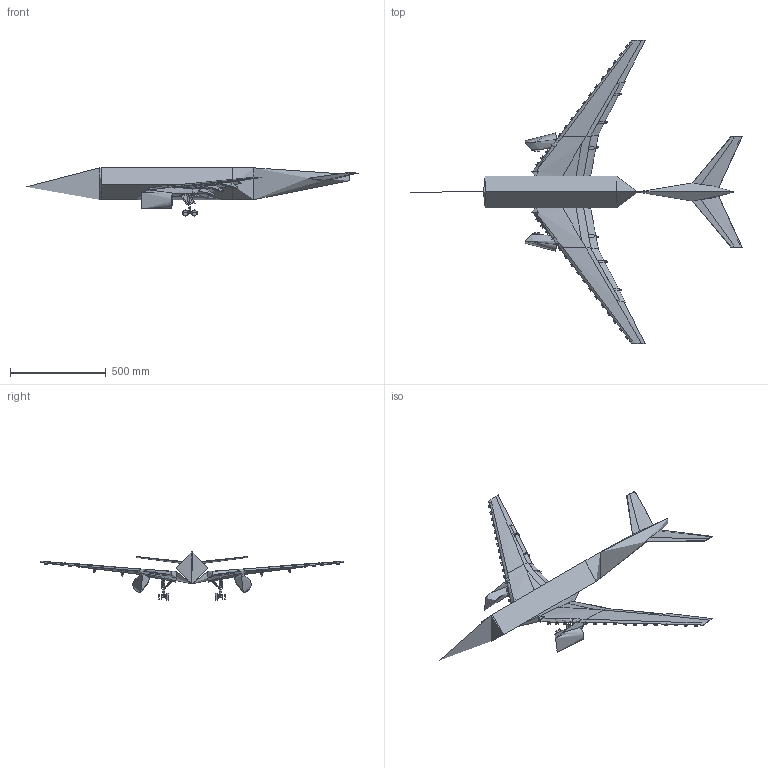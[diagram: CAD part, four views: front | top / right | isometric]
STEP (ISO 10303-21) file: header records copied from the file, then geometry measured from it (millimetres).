
FILE_DESCRIPTION(/* description */ (''),/* implementation_level */ '2;1');
FILE_NAME(/* name */ '3001000_FULL_SPAN_TAKEOFF_CONFIG_clean_2025_07_01.stp',/* time_stamp */ '2025-07-02T13:42:39-04:00',/* author */ (''),/* organization */ (''),/* preprocessor_version */ 'ST-DEVELOPER v16.7',/* originating_system */ 'SIEMENS PLM Software NX 12.0',/* authorisation */ '');
FILE_SCHEMA (('AP203_CONFIGURATION_CONTROLLED_3D_DESIGN_OF_MECHANICAL_PARTS_AND_ASSEMBLIES_MIM_LF { 1 0 10303 403 2 1 2}'));
Products named in the file (1): sbry68B0968Fqhf2
Bounding box: 1737.79 x 1587.06 x 253.09 mm (x, y, z)
Volume: 35864437.2 mm3; surface area: 1736235.7 mm2
Topology: 1 solids, 1 shells, 1668 faces, 4539 edges, 2881 vertices
Faces by surface type: bspline 654, plane 478, cylinder 284, extrusion 120, revolution 80, cone 40, sphere 8, torus 4
Entity records: 297656 total; most frequent: CARTESIAN_POINT 261582, ORIENTED_EDGE 8978, DIRECTION 5114, EDGE_CURVE 4489, VERTEX_POINT 2869, B_SPLINE_CURVE_WITH_KNOTS 2221, EDGE_LOOP 1738, AXIS2_PLACEMENT_3D 1735
